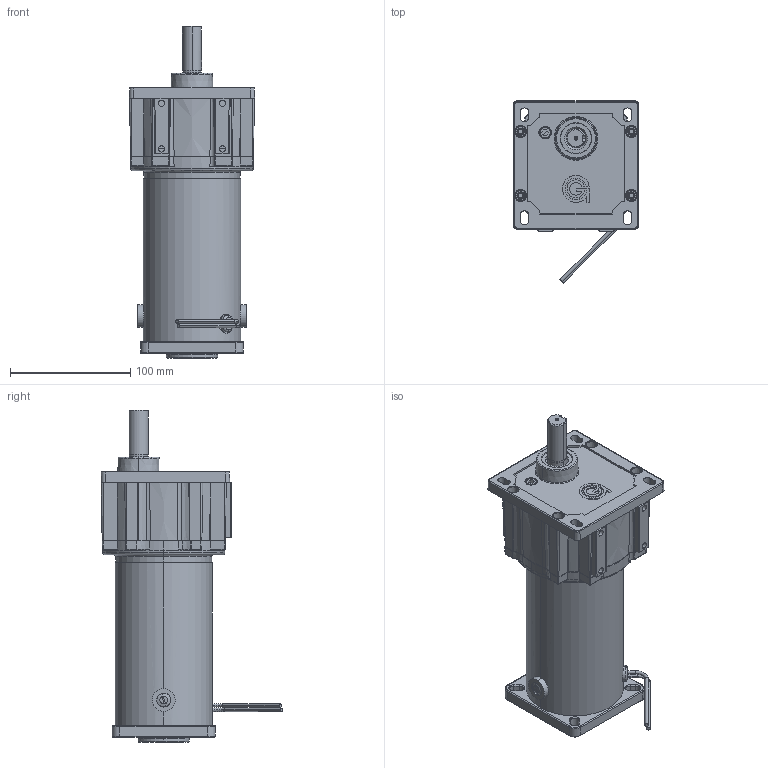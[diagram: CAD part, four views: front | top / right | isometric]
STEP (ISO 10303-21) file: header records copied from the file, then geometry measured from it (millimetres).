
FILE_DESCRIPTION (( 'STEP AP203' ), '1' );
FILE_NAME ('OUTLINE PM8014HV-PS2100.STEP', '2006-11-15T21:19:17', ( 'Groschopp' ), ( 'Groschopp' ), 'SwSTEP 2.0', 'SolidWorks 2007', '' );
FILE_SCHEMA (( 'CONFIG_CONTROL_DESIGN' ));
Length unit declared in the file: inch
Products named in the file (1): OUTLINE PM8014HV-PS2100
Bounding box: 104.29 x 151.34 x 276.35 mm (x, y, z)
Surface area: 114237.3 mm2 (no closed solid volume)
Topology: 0 solids, 26 shells, 634 faces, 1764 edges, 1121 vertices
Faces by surface type: cylinder 206, plane 170, cone 109, torus 90, bspline 41, sphere 18
Entity records: 22043 total; most frequent: CARTESIAN_POINT 5968, DIRECTION 3522, ORIENTED_EDGE 3171, EDGE_CURVE 1740, AXIS2_PLACEMENT_3D 1426, VERTEX_POINT 1115, CIRCLE 832, EDGE_LOOP 698
